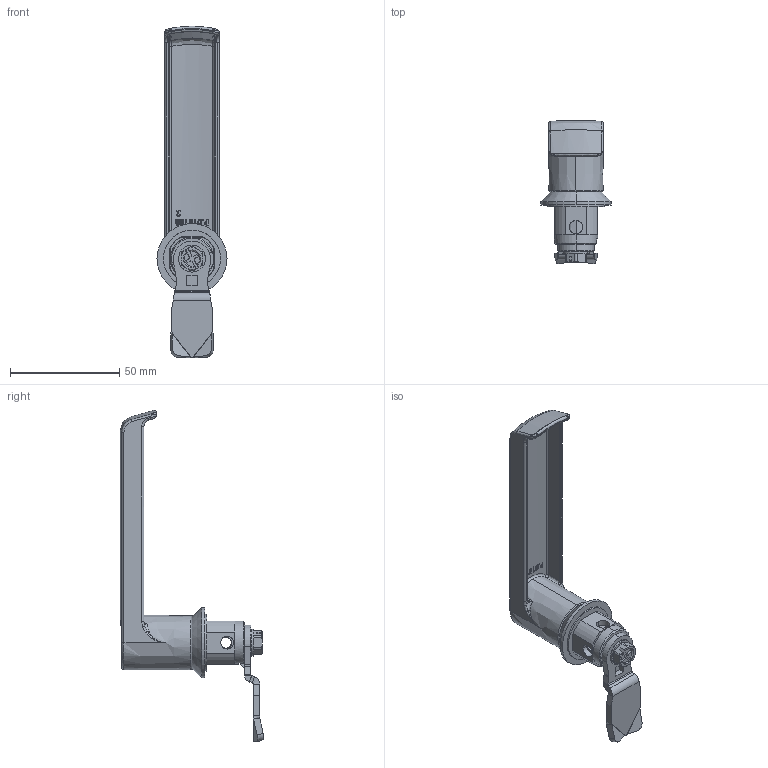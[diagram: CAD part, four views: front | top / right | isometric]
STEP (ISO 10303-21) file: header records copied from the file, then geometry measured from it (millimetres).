
FILE_DESCRIPTION (( 'STEP AP203' ), '1' );
FILE_NAME ('2.L18.105(6).STEP', '2022-02-14T06:17:31', ( '' ), ( '' ), 'SwSTEP 2.0', 'SolidWorks 2021', '' );
FILE_SCHEMA (( 'CONFIG_CONTROL_DESIGN' ));
Length unit declared in the file: millimetre
Products named in the file (8): 2.L18.105(6); 2.IP65.003_A; 1C.J-1XX.H.L_#3, 1.75.22.45; 2.T18.001.01_A; P.015108_00-00; S6PZ_M6x8; DIN 3771_13x3,5; 5.R00.264_A
Assembly tree (7 placements, depth 2):
  2.L18.105(6)
    P.015108_00-00
    2.T18.001.01_A
    1C.J-1XX.H.L_#3, 1.75.22.45
    S6PZ_M6x8
    DIN 3771_13x3,5
    5.R00.264_A
    2.IP65.003_A
Bounding box: 32 x 65.52 x 151.46 mm (x, y, z)
Volume: 32786.3 mm3; surface area: 23676.7 mm2
Topology: 7 solids, 7 shells, 579 faces, 1471 edges, 911 vertices
Faces by surface type: plane 206, bspline 176, cylinder 95, cone 63, torus 36, sphere 3
Entity records: 28254 total; most frequent: CARTESIAN_POINT 15101, ORIENTED_EDGE 2914, DIRECTION 2061, EDGE_CURVE 1457, VERTEX_POINT 910, AXIS2_PLACEMENT_3D 761, EDGE_LOOP 621, ADVANCED_FACE 578
